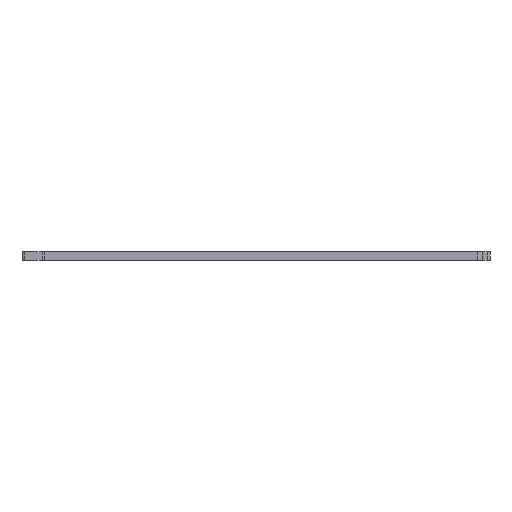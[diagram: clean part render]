
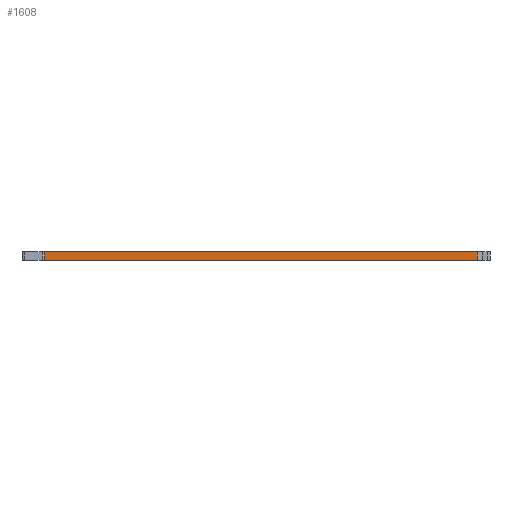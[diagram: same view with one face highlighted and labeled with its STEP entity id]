
A CAD part, left-side view. The second image highlights one B-rep face of the part: STEP entity #1608.
In plain terms, the highlighted planar face has unit normal (-1, 0, 0).
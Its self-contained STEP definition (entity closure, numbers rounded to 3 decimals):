
#104=DIRECTION('',(0.,-1.,0.));
#105=VECTOR('',#104,151.);
#106=CARTESIAN_POINT('',(-129.,156.,-1.5));
#107=LINE('',#106,#105);
#375=DIRECTION('',(0.,-1.,0.));
#376=VECTOR('',#375,151.);
#377=CARTESIAN_POINT('',(-129.,156.,1.5));
#378=LINE('',#377,#376);
#605=DIRECTION('',(0.,0.,-1.));
#606=VECTOR('',#605,3.);
#607=CARTESIAN_POINT('',(-129.,5.,1.5));
#608=LINE('',#607,#606);
#609=DIRECTION('',(0.,0.,1.));
#610=VECTOR('',#609,3.);
#611=CARTESIAN_POINT('',(-129.,156.,-1.5));
#612=LINE('',#611,#610);
#637=CARTESIAN_POINT('',(-129.,156.,-1.5));
#638=CARTESIAN_POINT('',(-129.,156.,1.5));
#639=VERTEX_POINT('',#637);
#640=VERTEX_POINT('',#638);
#650=CARTESIAN_POINT('',(-129.,5.,-1.5));
#652=VERTEX_POINT('',#650);
#653=CARTESIAN_POINT('',(-129.,5.,1.5));
#654=VERTEX_POINT('',#653);
#1596=CARTESIAN_POINT('',(-129.,164.,-1.5));
#1597=DIRECTION('',(-1.,0.,0.));
#1598=DIRECTION('',(0.,-1.,0.));
#1599=AXIS2_PLACEMENT_3D('',#1596,#1597,#1598);
#1600=PLANE('',#1599);
#1601=ORIENTED_EDGE('',*,*,#1589,.T.);
#1602=ORIENTED_EDGE('',*,*,#846,.F.);
#1604=ORIENTED_EDGE('',*,*,#1603,.T.);
#1605=ORIENTED_EDGE('',*,*,#1052,.T.);
#1606=EDGE_LOOP('',(#1601,#1602,#1604,#1605));
#1607=FACE_OUTER_BOUND('',#1606,.F.);
#846=EDGE_CURVE('',#639,#652,#107,.T.);
#1052=EDGE_CURVE('',#640,#654,#378,.T.);
#1589=EDGE_CURVE('',#654,#652,#608,.T.);
#1603=EDGE_CURVE('',#639,#640,#612,.T.);
#1608=ADVANCED_FACE('',(#1607),#1600,.T.);
